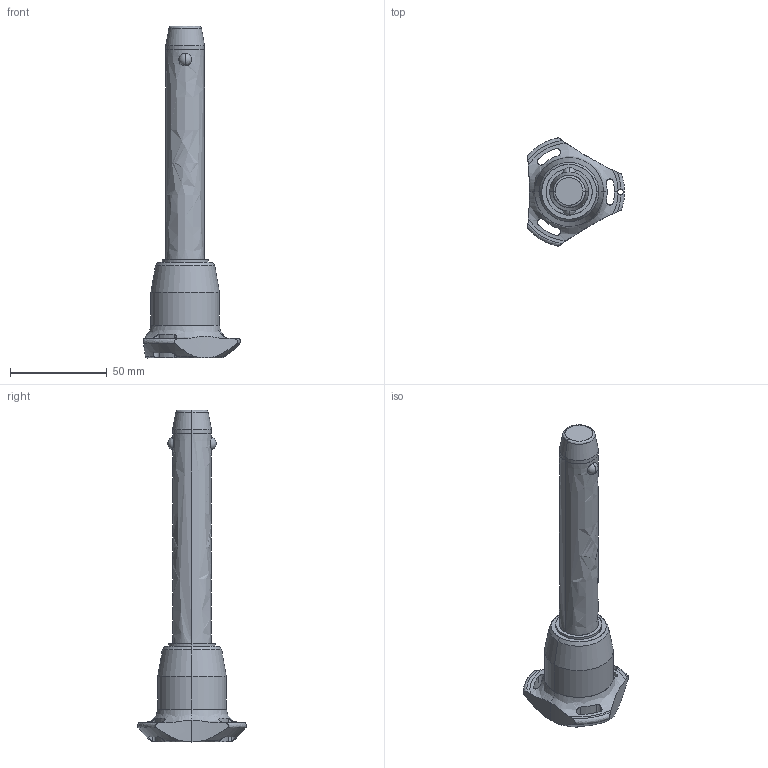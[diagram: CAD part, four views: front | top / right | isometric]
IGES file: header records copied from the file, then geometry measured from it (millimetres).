
Start section: SolidWorks IGES file using analytic representation for surfaces
Global section: file name: C:\Users\ianosborn\Desktop\QR1716_v2\QR1716_v2_20251114_IGES\QR1716.M20-100-T.igs; native system: SolidWorks 2019; preprocessor: SolidWorks 2019; author: IanOsborn; date: 251113.104355; units: millimetre
Bounding box: 50.05 x 56.02 x 171.2 mm (x, y, z)
Surface area: 17359.9 mm2 (no closed solid volume)
Topology: 0 solids, 0 shells, 68 faces, 1445 edges, 1441 vertices
Faces by surface type: revolution 52, bspline 16
